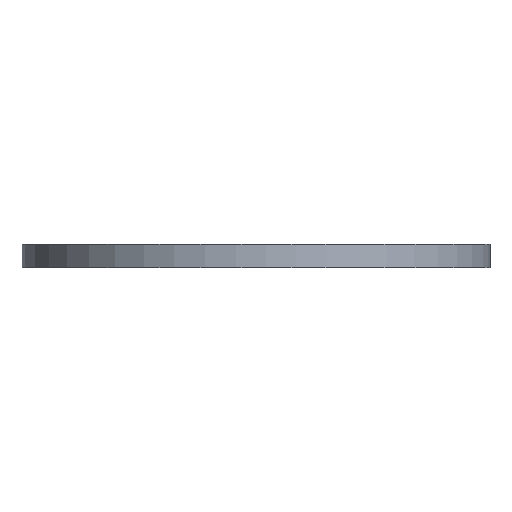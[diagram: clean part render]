
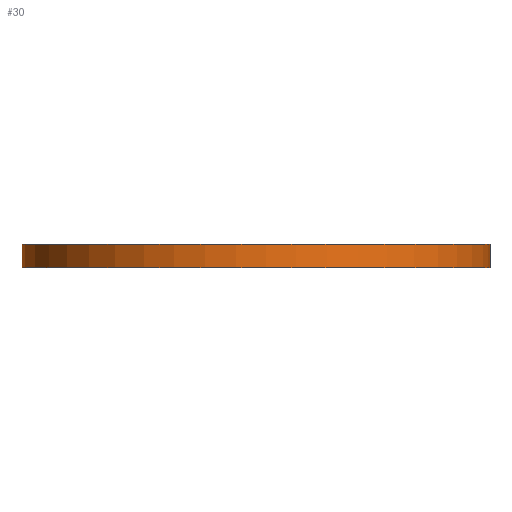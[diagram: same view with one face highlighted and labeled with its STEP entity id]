
A CAD part, front view. The second image highlights one B-rep face of the part: STEP entity #30.
In plain terms, the highlighted free-form (B-spline) face has degree [2, 1] with [5, 2] control points.
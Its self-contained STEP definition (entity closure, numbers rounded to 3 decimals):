
#30=ADVANCED_FACE('',(#36),#106,.T.);
#36=FACE_OUTER_BOUND('',#44,.T.);
#44=EDGE_LOOP('',(#62,#63,#64,#65));
#62=ORIENTED_EDGE('',*,*,#77,.T.);
#63=ORIENTED_EDGE('',*,*,#71,.T.);
#64=ORIENTED_EDGE('',*,*,#78,.F.);
#65=ORIENTED_EDGE('',*,*,#76,.F.);
#71=EDGE_CURVE('',#94,#95,#83,.T.);
#76=EDGE_CURVE('',#98,#99,#88,.T.);
#77=EDGE_CURVE('',#98,#94,#89,.T.);
#78=EDGE_CURVE('',#99,#95,#90,.T.);
#83=(
BOUNDED_CURVE()
B_SPLINE_CURVE(1,(#193,#194),.UNSPECIFIED.,.F.,.F.)
B_SPLINE_CURVE_WITH_KNOTS((2,2),(0.,10.),.UNSPECIFIED.)
CURVE()
GEOMETRIC_REPRESENTATION_ITEM()
RATIONAL_B_SPLINE_CURVE((1.,1.))
REPRESENTATION_ITEM('')
);
#88=(
BOUNDED_CURVE()
B_SPLINE_CURVE(1,(#212,#213),.UNSPECIFIED.,.F.,.F.)
B_SPLINE_CURVE_WITH_KNOTS((2,2),(0.,10.),.UNSPECIFIED.)
CURVE()
GEOMETRIC_REPRESENTATION_ITEM()
RATIONAL_B_SPLINE_CURVE((1.,1.))
REPRESENTATION_ITEM('')
);
#89=(
BOUNDED_CURVE()
B_SPLINE_CURVE(2,(#214,#215,#216,#217,#218),.UNSPECIFIED.,.F.,.F.)
B_SPLINE_CURVE_WITH_KNOTS((3,2,3),(314.159,471.239,628.319),
 .UNSPECIFIED.)
CURVE()
GEOMETRIC_REPRESENTATION_ITEM()
RATIONAL_B_SPLINE_CURVE((1.,0.707,1.,0.707,1.))
REPRESENTATION_ITEM('')
);
#90=(
BOUNDED_CURVE()
B_SPLINE_CURVE(2,(#219,#220,#221,#222,#223),.UNSPECIFIED.,.F.,.F.)
B_SPLINE_CURVE_WITH_KNOTS((3,2,3),(314.159,471.239,628.319),
 .UNSPECIFIED.)
CURVE()
GEOMETRIC_REPRESENTATION_ITEM()
RATIONAL_B_SPLINE_CURVE((1.,0.707,1.,0.707,1.))
REPRESENTATION_ITEM('')
);
#94=VERTEX_POINT('',#180);
#95=VERTEX_POINT('',#181);
#98=VERTEX_POINT('',#184);
#99=VERTEX_POINT('',#185);
#106=(
BOUNDED_SURFACE()
B_SPLINE_SURFACE(2,1,((#160,#161),(#162,#163),(#164,#165),(#166,#167),(#168,
#169)),.UNSPECIFIED.,.F.,.F.,.F.)
B_SPLINE_SURFACE_WITH_KNOTS((3,2,3),(2,2),(314.159,471.239,
628.319),(0.,10.),.UNSPECIFIED.)
GEOMETRIC_REPRESENTATION_ITEM()
RATIONAL_B_SPLINE_SURFACE(((1.,1.),(0.707,0.707),
(1.,1.),(0.707,0.707),(1.,1.)))
REPRESENTATION_ITEM('')
SURFACE()
);
#160=CARTESIAN_POINT('',(-100.,0.,210.));
#161=CARTESIAN_POINT('',(-100.,0.,220.));
#162=CARTESIAN_POINT('',(-100.,-100.,210.));
#163=CARTESIAN_POINT('',(-100.,-100.,220.));
#164=CARTESIAN_POINT('',(0.,-100.,210.));
#165=CARTESIAN_POINT('',(0.,-100.,220.));
#166=CARTESIAN_POINT('',(100.,-100.,210.));
#167=CARTESIAN_POINT('',(100.,-100.,220.));
#168=CARTESIAN_POINT('',(100.,0.,210.));
#169=CARTESIAN_POINT('',(100.,0.,220.));
#180=CARTESIAN_POINT('',(100.,0.,210.));
#181=CARTESIAN_POINT('',(100.,0.,220.));
#184=CARTESIAN_POINT('',(-100.,0.,210.));
#185=CARTESIAN_POINT('',(-100.,0.,220.));
#193=CARTESIAN_POINT('',(100.,0.,210.));
#194=CARTESIAN_POINT('',(100.,0.,220.));
#212=CARTESIAN_POINT('',(-100.,0.,210.));
#213=CARTESIAN_POINT('',(-100.,0.,220.));
#214=CARTESIAN_POINT('',(-100.,0.,210.));
#215=CARTESIAN_POINT('',(-100.,-100.,210.));
#216=CARTESIAN_POINT('',(0.,-100.,210.));
#217=CARTESIAN_POINT('',(100.,-100.,210.));
#218=CARTESIAN_POINT('',(100.,0.,210.));
#219=CARTESIAN_POINT('',(-100.,0.,220.));
#220=CARTESIAN_POINT('',(-100.,-100.,220.));
#221=CARTESIAN_POINT('',(0.,-100.,220.));
#222=CARTESIAN_POINT('',(100.,-100.,220.));
#223=CARTESIAN_POINT('',(100.,0.,220.));
